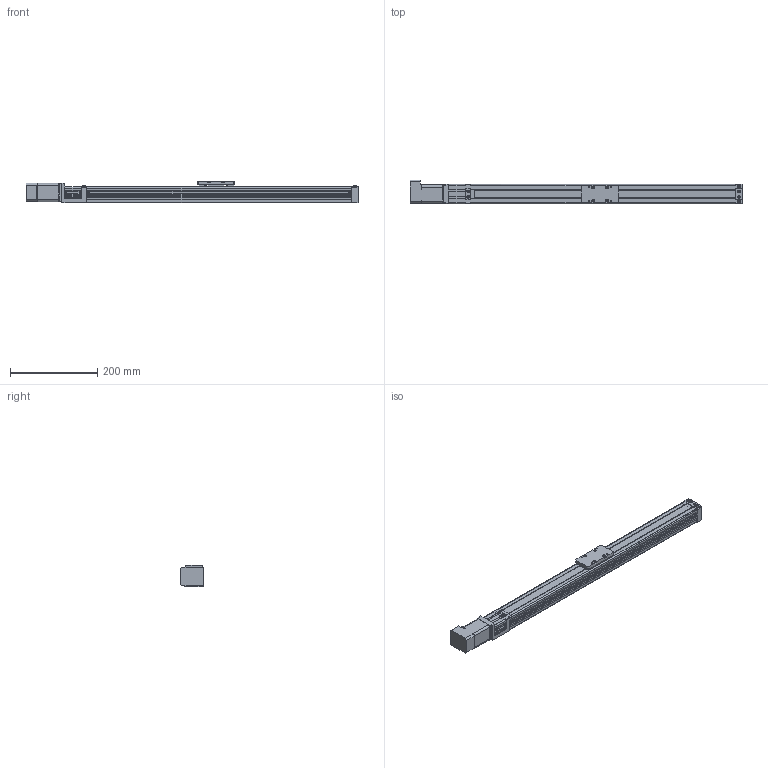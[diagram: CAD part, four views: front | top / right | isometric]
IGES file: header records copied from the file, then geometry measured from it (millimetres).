
Global section: file name: No Iges File Name specified; native system: AutoDesk Inventor R10; preprocessor: AutoDesk Inventor Iges Exporter R10; author: No Author specified; organization: No Organization specified; date: 20110617.145822; units: millimetre
Bounding box: 762.5 x 54.5 x 50 mm (x, y, z)
Surface area: 288591.5 mm2 (no closed solid volume)
Topology: 0 solids, 0 shells, 947 faces, 6258 edges, 6230 vertices
Faces by surface type: bspline 947
